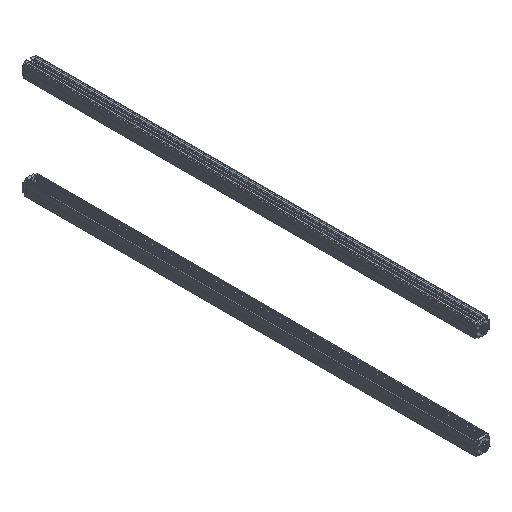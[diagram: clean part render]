
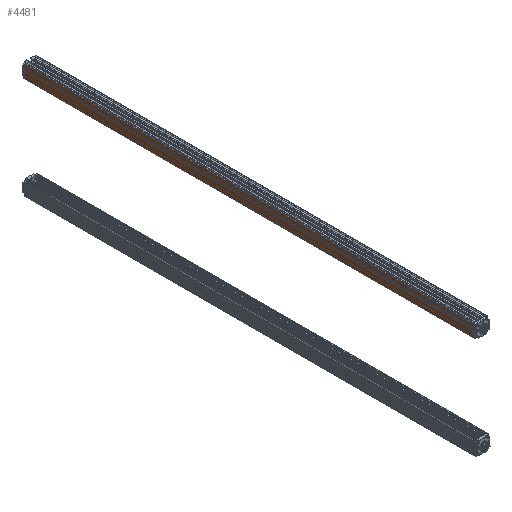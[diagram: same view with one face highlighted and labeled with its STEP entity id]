
A CAD part, isometric view. The second image highlights one B-rep face of the part: STEP entity #4481.
In plain terms, the highlighted planar face has unit normal (-1, 0, -0.009) as drawn and (-1, 0, 0) by its records, which use the part's own axes.
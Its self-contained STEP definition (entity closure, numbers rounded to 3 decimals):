
#652 = VERTEX_POINT ( 'NONE', #12455 ) ;
#2308 = VERTEX_POINT ( 'NONE', #7155 ) ;
#3232 = ORIENTED_EDGE ( 'NONE', *, *, #5317, .T. ) ;
#4481 = ADVANCED_FACE ( 'NONE', ( #10684 ), #6490, .F. ) ;
#4593 = CARTESIAN_POINT ( 'NONE',  ( -15., 1010., 10.9 ) ) ;
#5230 = VECTOR ( 'NONE', #15754, 1000. ) ;
#5285 = DIRECTION ( 'NONE',  ( 0., 0., -1. ) ) ;
#5317 = EDGE_CURVE ( 'NONE', #6851, #2308, #6540, .T. ) ;
#5804 = AXIS2_PLACEMENT_3D ( 'NONE', #16287, #16454, #5285 ) ;
#6266 = CARTESIAN_POINT ( 'NONE',  ( -15., 1010., 10.9 ) ) ;
#6490 = PLANE ( 'NONE',  #5804 ) ;
#6540 = LINE ( 'NONE', #12417, #9993 ) ;
#6851 = VERTEX_POINT ( 'NONE', #17581 ) ;
#6856 = LINE ( 'NONE', #13569, #13546 ) ;
#7155 = CARTESIAN_POINT ( 'NONE',  ( -15., 0., -16.693 ) ) ;
#8047 = EDGE_CURVE ( 'NONE', #6851, #10663, #6856, .T. ) ;
#8149 = EDGE_CURVE ( 'NONE', #10663, #652, #14569, .T. ) ;
#8875 = DIRECTION ( 'NONE',  ( 0., -1., 0. ) ) ;
#9495 = ORIENTED_EDGE ( 'NONE', *, *, #13968, .T. ) ;
#9988 = VECTOR ( 'NONE', #8875, 1000. ) ;
#9993 = VECTOR ( 'NONE', #12697, 1000. ) ;
#10066 = LINE ( 'NONE', #11647, #5230 ) ;
#10663 = VERTEX_POINT ( 'NONE', #6266 ) ;
#10684 = FACE_OUTER_BOUND ( 'NONE', #15135, .T. ) ;
#10957 = ORIENTED_EDGE ( 'NONE', *, *, #8047, .F. ) ;
#11647 = CARTESIAN_POINT ( 'NONE',  ( -15., 0., -16.9 ) ) ;
#12417 = CARTESIAN_POINT ( 'NONE',  ( -15., 1010., -16.693 ) ) ;
#12455 = CARTESIAN_POINT ( 'NONE',  ( -15., 0., 10.9 ) ) ;
#12697 = DIRECTION ( 'NONE',  ( 0., -1., 0. ) ) ;
#13546 = VECTOR ( 'NONE', #13752, 1000. ) ;
#13569 = CARTESIAN_POINT ( 'NONE',  ( -15., 1010., -16.9 ) ) ;
#13752 = DIRECTION ( 'NONE',  ( 0., 0., 1. ) ) ;
#13968 = EDGE_CURVE ( 'NONE', #2308, #652, #10066, .T. ) ;
#14439 = ORIENTED_EDGE ( 'NONE', *, *, #8149, .F. ) ;
#14569 = LINE ( 'NONE', #4593, #9988 ) ;
#15135 = EDGE_LOOP ( 'NONE', ( #10957, #3232, #9495, #14439 ) ) ;
#15754 = DIRECTION ( 'NONE',  ( 0., 0., 1. ) ) ;
#16287 = CARTESIAN_POINT ( 'NONE',  ( -15., 1010., -16.9 ) ) ;
#16454 = DIRECTION ( 'NONE',  ( 1., 0., 0. ) ) ;
#17581 = CARTESIAN_POINT ( 'NONE',  ( -15., 1010., -16.693 ) ) ;
